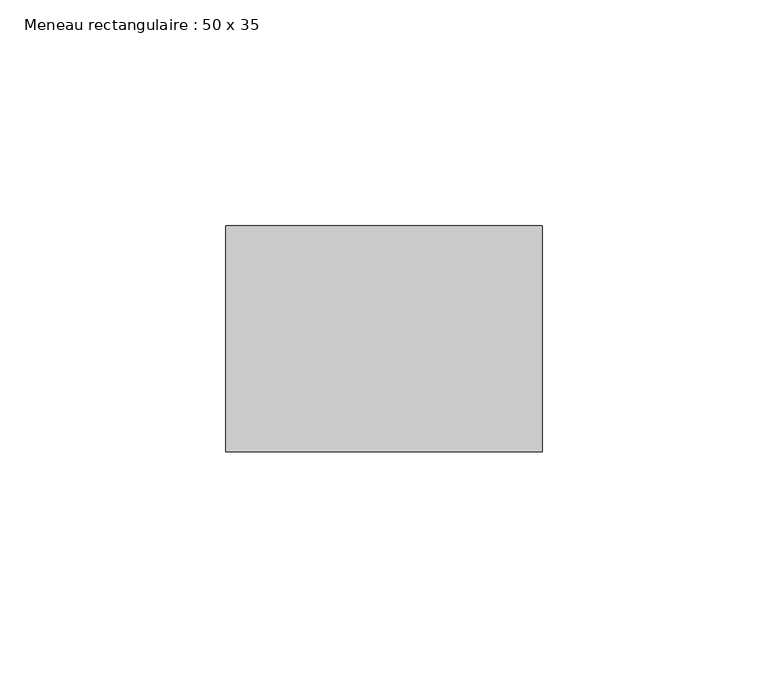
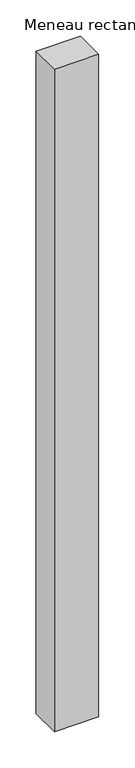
"""IFC4 building model written with IfcOpenShell, lengths in millimetres: member geometry, Meneau rectangulaire : 50 x 35."""

from ifc_helpers import new_model, si_unit, frame, origin, place, context, project, spatial, polyline, outline, extrude, source, transform, mapped, element, save


def meneau_rectangulaire_50_x_35_8a549e5b(model_context):
    return source(origin(), model_context, "Body", "SweptSolid", [
        extrude(outline(polyline([(0.0, 0.0), (0.0, -50.0), (-70.0, -50.0), (-70.0, 0.0), (0.0, 0.0)])), frame((0.0, 0.0, -1111.0), z_axis=(0.0, 0.0, 1.0), x_axis=(1.0, 0.0, 0.0)), (0.0, 0.0, 1.0), 1111.0),
    ])


if __name__ == "__main__":
    model = new_model("IFC4")
    model_context = context("Model", 3, world=origin())
    ifc_project = project(units=[si_unit("LENGTHUNIT", "METRE", prefix="MILLI")], contexts=[model_context])
    site = spatial("IfcSite", under=ifc_project)
    building = spatial("IfcBuilding", under=site)
    placement = place(None, origin())
    meneau_rectangulaire_50_x_35_shape = meneau_rectangulaire_50_x_35_8a549e5b(model_context)
    element("IfcMember", 1, ObjectType="Meneau rectangulaire : 50 x 35", at=placement, inside=building, context=model_context, shape_type="MappedRepresentation", body=[
        mapped(meneau_rectangulaire_50_x_35_shape, transform((0.0, 0.0, 0.0), x_axis=(1.0, 0.0, 0.0), y_axis=(0.0, 1.0, 0.0), z_axis=(0.0, 0.0, 1.0))),
    ])
    save(model, "model.ifc")
